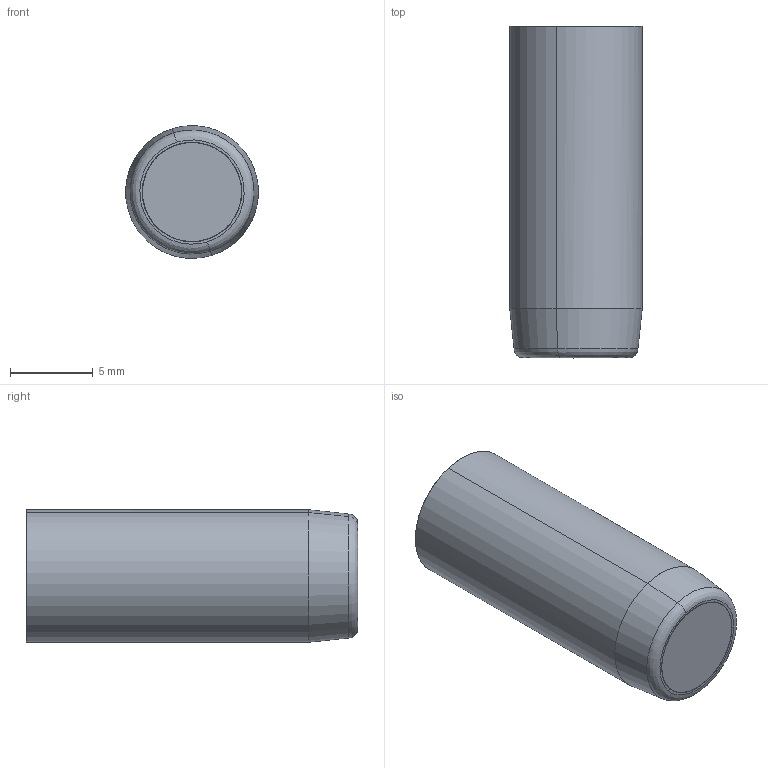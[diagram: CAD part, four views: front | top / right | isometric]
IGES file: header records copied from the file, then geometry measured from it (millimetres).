
Start section: START RECORD GO HERE.
Global section: file name: fa084705-21.igs; native system: DASSAULT SYSTEMES CATIA V5 R20 - www.3ds.com; preprocessor: CATIA Version 5 Release 20 ; author: Utente; organization: NB04-ASUS; date: 20201108.083753; units: millimetre
Bounding box: 7.99 x 20 x 8 mm (x, y, z)
Surface area: 1508.4 mm2 (no closed solid volume)
Topology: 0 solids, 0 shells, 334 faces, 1627 edges, 1624 vertices
Faces by surface type: bspline 155, plane 107, revolution 72
